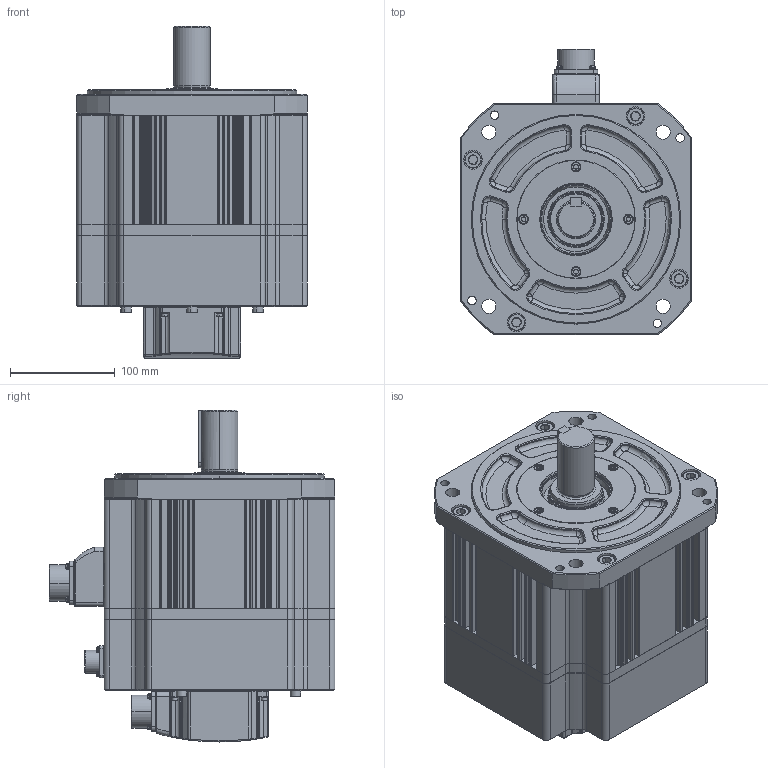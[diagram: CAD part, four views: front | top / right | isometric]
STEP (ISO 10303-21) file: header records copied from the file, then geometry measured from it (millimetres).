
FILE_DESCRIPTION (( 'STEP AP214' ), '1' );
FILE_NAME ('FM22GA007-1G02_Out Line(APM-FG35D_K3,FG30G_K3,FG20M_K3).STEP', '2019-07-10T07:43:24', ( '' ), ( '' ), 'SwSTEP 2.0', 'SolidWorks 2011', '' );
FILE_SCHEMA (( 'AUTOMOTIVE_DESIGN' ));
Length unit declared in the file: millimetre
Products named in the file (1): FM22GA007-1G02_Out Line(APM-FG35D_K3,FG30G_K3,FG20M_K3)
Bounding box: 220 x 272.5 x 316.7 mm (x, y, z)
Volume: 9058182 mm3; surface area: 767771.2 mm2
Topology: 76 solids, 76 shells, 2595 faces, 6412 edges, 4058 vertices
Faces by surface type: cylinder 1010, plane 905, cone 346, torus 183, bspline 151
Entity records: 115240 total; most frequent: CARTESIAN_POINT 23754, DIRECTION 13407, ORIENTED_EDGE 12660, EDGE_CURVE 6330, AXIS2_PLACEMENT_3D 5193, VERTEX_POINT 4058, LINE 3021, VECTOR 3021
